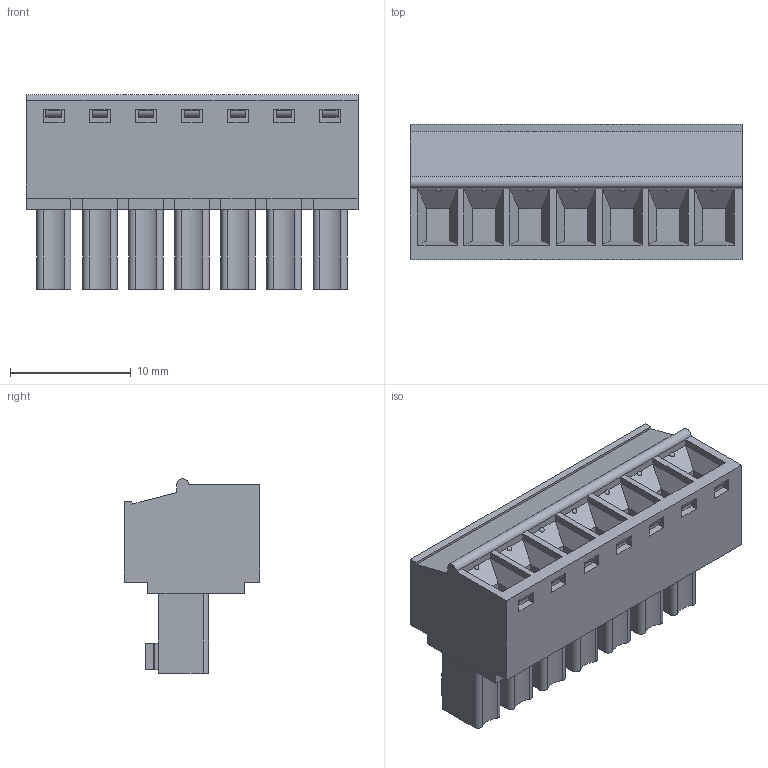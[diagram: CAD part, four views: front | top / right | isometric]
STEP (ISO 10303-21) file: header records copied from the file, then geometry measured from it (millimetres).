
FILE_DESCRIPTION(('FreeCAD Model'),'2;1');
FILE_NAME('Open CASCADE Shape Model','2023-05-24T15:13:03',('Author'),( ''),'Open CASCADE STEP processor 7.6','FreeCAD','Unknown');
FILE_SCHEMA(('AUTOMOTIVE_DESIGN { 1 0 10303 214 1 1 1 1 }'));
Length unit declared in the file: millimetre
Products named in the file (1): BR7F2-07
Bounding box: 27.46 x 11.2 x 16.1 mm (x, y, z)
Volume: 2729.2 mm3; surface area: 2654.9 mm2
Topology: 1 solids, 1 shells, 629 faces, 1526 edges, 948 vertices
Faces by surface type: plane 376, cylinder 141, cone 70, torus 28, sphere 14
Entity records: 41007 total; most frequent: CARTESIAN_POINT 10037, DIRECTION 5933, LINE 3597, VECTOR 3597, ORIENTED_EDGE 3024, PCURVE 3024, DEFINITIONAL_REPRESENTATION 3024, EDGE_CURVE 1512
